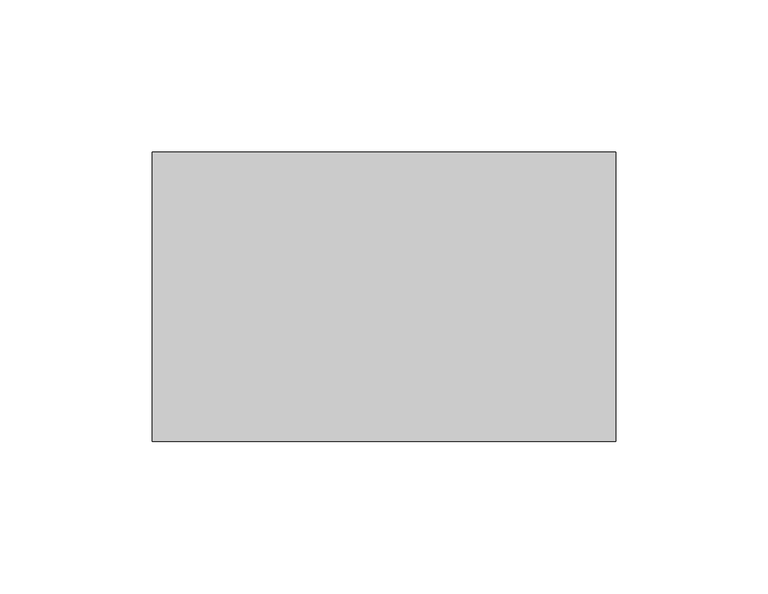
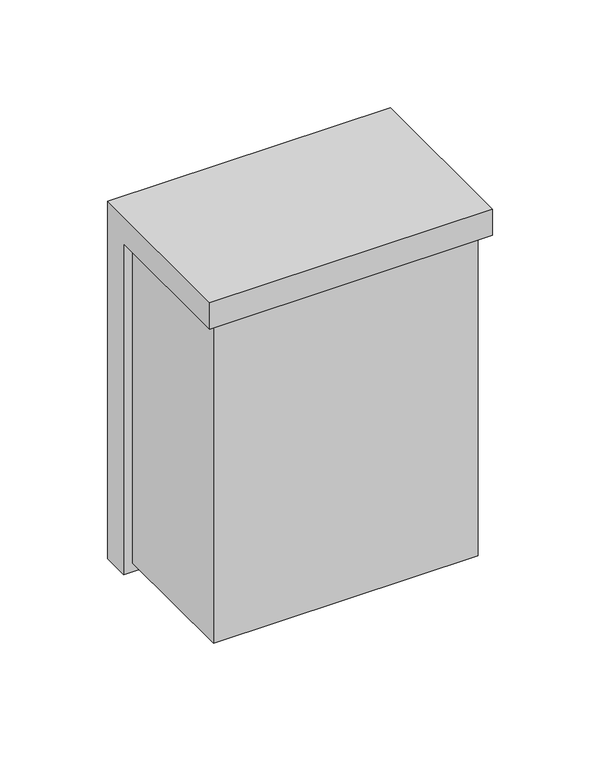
"""IFC4 building model written with IfcOpenShell, lengths in millimetres: light fixture geometry, GENILED_Светильник светодиодный_Sova : Sova mini 152x95x203 12Вт/3000К/4000К/5000К IP66."""

from ifc_helpers import new_model, si_unit, frame, origin, place, context, project, spatial, polyline, outline, extrude, source, transform, mapped, element, save


def light_fixture_0e4e240a(model_context):
    return source(origin(), model_context, "Body", "SweptSolid", [
        extrude(outline(polyline([(71.0, -15.0), (71.0, -90.0), (-71.0, -90.0), (-71.0, -15.0), (71.0, -15.0)])), frame((0.0, 0.0, 5.0), z_axis=(0.0, 0.0, 1.0), x_axis=(1.0, 0.0, 0.0)), (0.0, 0.0, 1.0), 183.0),
        extrude(outline(polyline([(-95.0, 188.0), (-95.0, 203.0), (0.0, 203.0), (0.0, 0.0), (-15.0, 0.0), (-15.0, 188.0), (-95.0, 188.0)])), frame((-76.0, 0.0, 0.0), z_axis=(1.0, 0.0, 0.0), x_axis=(0.0, 1.0, 0.0)), (0.0, 0.0, 1.0), 152.0),
    ])


if __name__ == "__main__":
    model = new_model("IFC4")
    model_context = context("Model", 3, world=origin())
    ifc_project = project(units=[si_unit("LENGTHUNIT", "METRE", prefix="MILLI")], contexts=[model_context])
    site = spatial("IfcSite", under=ifc_project)
    building = spatial("IfcBuilding", under=site)
    placement = place(None, origin())
    light_fixture_shape = light_fixture_0e4e240a(model_context)
    element("IfcLightFixture", 1, ObjectType="GENILED_Светильник светодиодный_Sova : Sova mini 152x95x203 12Вт/3000К/4000К/5000К IP66", at=placement, inside=building, context=model_context, shape_type="MappedRepresentation", body=[
        mapped(light_fixture_shape, transform((0.0, 0.0, 0.0), x_axis=(1.0, 0.0, 0.0), y_axis=(0.0, 1.0, 0.0), z_axis=(0.0, 0.0, 1.0))),
    ])
    save(model, "model.ifc")
